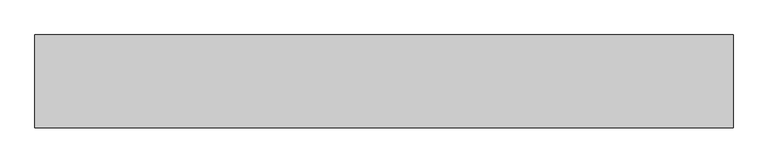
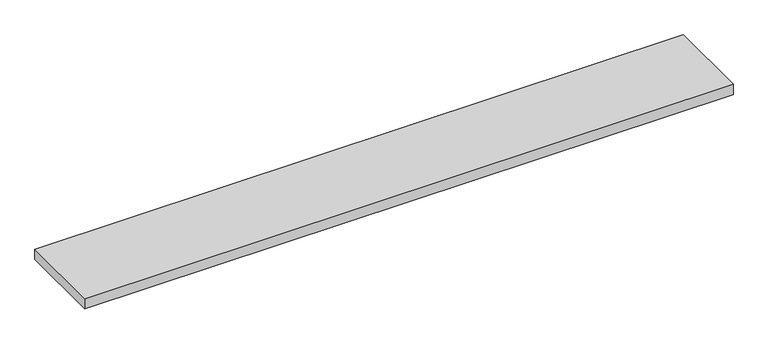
"""IFC4 building model written with IfcOpenShell, lengths in millimetres: proxy geometry, Vita_Решетка : РАП_Алюминиевая продольная."""

from ifc_helpers import new_model, si_unit, frame, origin, place, context, project, spatial, polyline, outline, extrude, source, transform, mapped, element, save


def mechanical_equipment_5ba0c7e1(model_context):
    return source(origin(), model_context, "Body", "SweptSolid", [
        extrude(outline(polyline([(-599.0, -112.8), (599.0, -112.8), (599.0, -272.2), (-599.0, -272.2), (-599.0, -112.8)])), frame((0.0, 0.0, 159.83), z_axis=(0.0, 0.0, 1.0), x_axis=(1.0, 0.0, 0.0)), (0.0, 0.0, 1.0), 20.17),
    ])


if __name__ == "__main__":
    model = new_model("IFC4")
    model_context = context("Model", 3, world=origin())
    ifc_project = project(units=[si_unit("LENGTHUNIT", "METRE", prefix="MILLI")], contexts=[model_context])
    site = spatial("IfcSite", under=ifc_project)
    building = spatial("IfcBuilding", under=site)
    placement = place(None, origin())
    mechanical_equipment_shape = mechanical_equipment_5ba0c7e1(model_context)
    element("IfcBuildingElementProxy", 1, Name="Vita_Решетка : РАП_Алюминиевая продольная", ObjectType="Vita_Решетка : РАП_Алюминиевая продольная", at=placement, inside=building, context=model_context, shape_type="MappedRepresentation", body=[
        mapped(mechanical_equipment_shape, transform((0.0, 0.0, 0.0), x_axis=(1.0, 0.0, 0.0), y_axis=(0.0, 1.0, 0.0), z_axis=(0.0, 0.0, 1.0))),
    ])
    save(model, "model.ifc")
